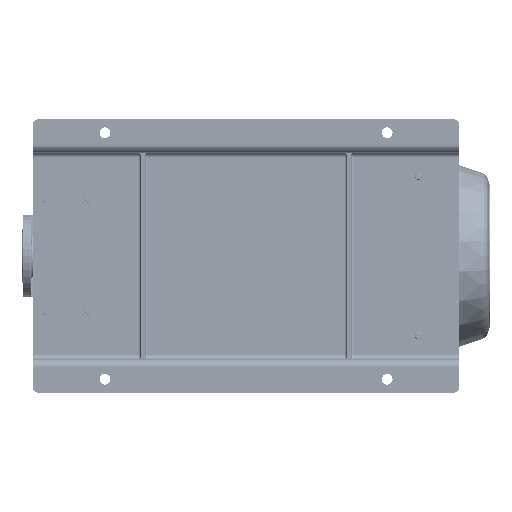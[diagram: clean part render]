
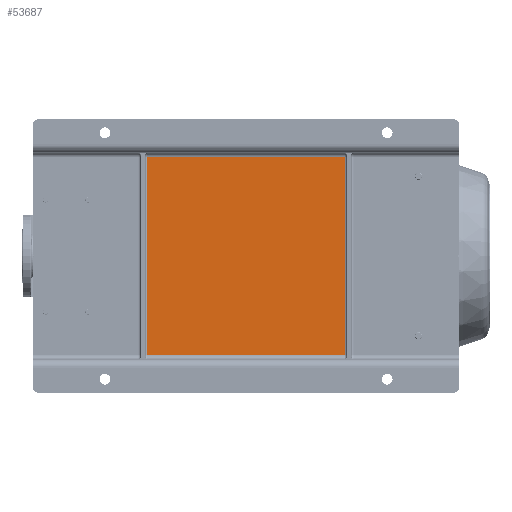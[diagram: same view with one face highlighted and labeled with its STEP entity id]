
A CAD part, front view. The second image highlights one B-rep face of the part: STEP entity #53687.
In plain terms, the highlighted planar face has unit normal (0, -1, 0).
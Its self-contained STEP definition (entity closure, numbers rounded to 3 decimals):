
#2727 = VECTOR ( 'NONE', #114660, 1000. ) ;
#4853 = LINE ( 'NONE', #64698, #70782 ) ;
#7628 = DIRECTION ( 'NONE',  ( 0., 0., -1. ) ) ;
#18415 = CARTESIAN_POINT ( 'NONE',  ( 525., 65., -250. ) ) ;
#23188 = VERTEX_POINT ( 'NONE', #68518 ) ;
#28997 = CARTESIAN_POINT ( 'NONE',  ( 525., 65., -695. ) ) ;
#36230 = VERTEX_POINT ( 'NONE', #144977 ) ;
#40797 = LINE ( 'NONE', #97789, #66831 ) ;
#42631 = DIRECTION ( 'NONE',  ( 1., 0., 0. ) ) ;
#53687 = ADVANCED_FACE ( 'NONE', ( #102399 ), #78744, .T. ) ;
#57618 = CARTESIAN_POINT ( 'NONE',  ( 75., 65., -255. ) ) ;
#64698 = CARTESIAN_POINT ( 'NONE',  ( 85., 65., -700. ) ) ;
#66831 = VECTOR ( 'NONE', #42631, 1000. ) ;
#67315 = EDGE_CURVE ( 'NONE', #23188, #111472, #40797, .T. ) ;
#68518 = CARTESIAN_POINT ( 'NONE',  ( 85., 65., -695. ) ) ;
#70782 = VECTOR ( 'NONE', #7628, 1000. ) ;
#72194 = ORIENTED_EDGE ( 'NONE', *, *, #77535, .T. ) ;
#74313 = DIRECTION ( 'NONE',  ( 0., -1., 0. ) ) ;
#75434 = DIRECTION ( 'NONE',  ( 0., 0., 1. ) ) ;
#76052 = EDGE_LOOP ( 'NONE', ( #165355, #180041, #139970, #72194 ) ) ;
#77535 = EDGE_CURVE ( 'NONE', #36230, #100175, #100638, .T. ) ;
#78744 = PLANE ( 'NONE',  #173815 ) ;
#97789 = CARTESIAN_POINT ( 'NONE',  ( 75., 65., -695. ) ) ;
#100175 = VERTEX_POINT ( 'NONE', #145171 ) ;
#100638 = LINE ( 'NONE', #57618, #2727 ) ;
#102399 = FACE_OUTER_BOUND ( 'NONE', #76052, .T. ) ;
#111472 = VERTEX_POINT ( 'NONE', #28997 ) ;
#114660 = DIRECTION ( 'NONE',  ( -1., 0., 0. ) ) ;
#131343 = DIRECTION ( 'NONE',  ( 0., 0., -1. ) ) ;
#135729 = CARTESIAN_POINT ( 'NONE',  ( 75., 65., -950. ) ) ;
#139222 = EDGE_CURVE ( 'NONE', #111472, #36230, #174515, .T. ) ;
#139970 = ORIENTED_EDGE ( 'NONE', *, *, #139222, .T. ) ;
#144977 = CARTESIAN_POINT ( 'NONE',  ( 525., 65., -255. ) ) ;
#145171 = CARTESIAN_POINT ( 'NONE',  ( 85., 65., -255. ) ) ;
#158050 = VECTOR ( 'NONE', #75434, 1000. ) ;
#165355 = ORIENTED_EDGE ( 'NONE', *, *, #174565, .T. ) ;
#173815 = AXIS2_PLACEMENT_3D ( 'NONE', #135729, #74313, #131343 ) ;
#174515 = LINE ( 'NONE', #18415, #158050 ) ;
#174565 = EDGE_CURVE ( 'NONE', #100175, #23188, #4853, .T. ) ;
#180041 = ORIENTED_EDGE ( 'NONE', *, *, #67315, .T. ) ;
